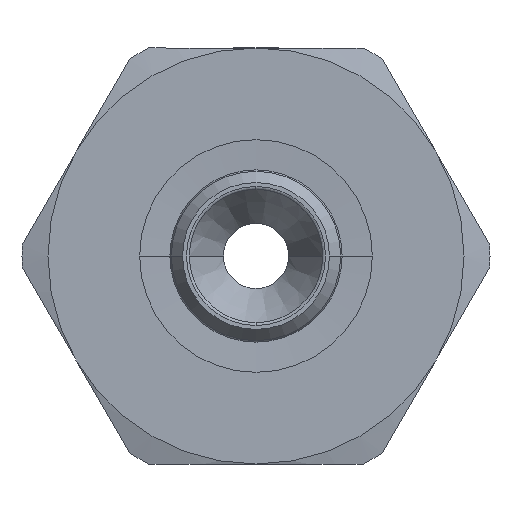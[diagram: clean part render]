
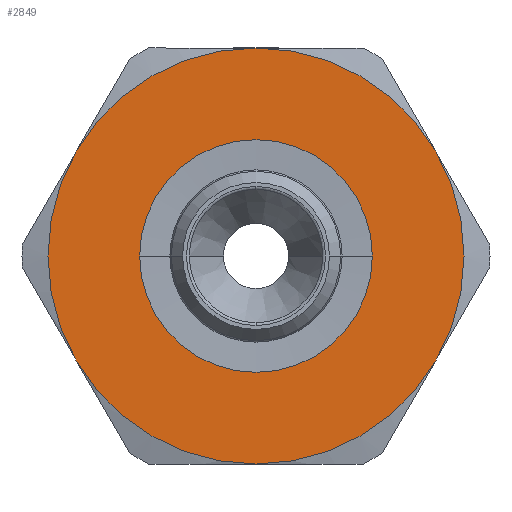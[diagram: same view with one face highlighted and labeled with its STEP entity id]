
A CAD part, left-side view. The second image highlights one B-rep face of the part: STEP entity #2849.
In plain terms, the highlighted planar face has unit normal (-1, 0, 0) as drawn and (0, 0, 1) by its records, which use the part's own axes.
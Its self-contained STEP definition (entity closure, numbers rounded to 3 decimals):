
#1176=CARTESIAN_POINT('',(0.,-8.95,4.5));
#1177=VERTEX_POINT('',#1176);
#1193=CARTESIAN_POINT('',(0.,8.95,4.5));
#1194=VERTEX_POINT('',#1193);
#1201=CARTESIAN_POINT('',(0.,0.,4.5));
#1202=DIRECTION('',(0.0,0.0,-1.0));
#1203=DIRECTION('',(0.0,-1.0,0.0));
#1204=AXIS2_PLACEMENT_3D('',#1201,#1202,#1203);
#1205=CIRCLE('',#1204,8.95);
#1206=EDGE_CURVE('',#1177,#1194,#1205,.T.);
#1663=CARTESIAN_POINT('',(0.,0.,4.5));
#1664=DIRECTION('',(0.0,0.0,-1.0));
#1665=DIRECTION('',(0.0,-1.0,0.0));
#1666=AXIS2_PLACEMENT_3D('',#1663,#1664,#1665);
#1667=CIRCLE('',#1666,8.95);
#1668=EDGE_CURVE('',#1194,#1177,#1667,.T.);
#2222=CARTESIAN_POINT('',(8.,-13.856,4.5));
#2223=VERTEX_POINT('',#2222);
#2237=CARTESIAN_POINT('',(-8.,-13.856,4.5));
#2238=VERTEX_POINT('',#2237);
#2239=CARTESIAN_POINT('',(0.,0.0,4.5));
#2240=DIRECTION('',(0.0,0.0,1.0));
#2241=DIRECTION('',(1.0,0.0,0.0));
#2242=AXIS2_PLACEMENT_3D('',#2239,#2240,#2241);
#2243=CIRCLE('',#2242,16.);
#2244=EDGE_CURVE('',#2238,#2223,#2243,.T.);
#2322=CARTESIAN_POINT('',(-16.0,0.,4.5));
#2323=VERTEX_POINT('',#2322);
#2324=CARTESIAN_POINT('',(0.,0.0,4.5));
#2325=DIRECTION('',(0.0,0.0,1.0));
#2326=DIRECTION('',(1.0,0.0,0.0));
#2327=AXIS2_PLACEMENT_3D('',#2324,#2325,#2326);
#2328=CIRCLE('',#2327,16.);
#2329=EDGE_CURVE('',#2323,#2238,#2328,.T.);
#2406=CARTESIAN_POINT('',(-8.,13.856,4.5));
#2407=VERTEX_POINT('',#2406);
#2408=CARTESIAN_POINT('',(0.,0.0,4.5));
#2409=DIRECTION('',(0.0,0.0,1.0));
#2410=DIRECTION('',(1.0,0.0,0.0));
#2411=AXIS2_PLACEMENT_3D('',#2408,#2409,#2410);
#2412=CIRCLE('',#2411,16.);
#2413=EDGE_CURVE('',#2407,#2323,#2412,.T.);
#2490=CARTESIAN_POINT('',(8.,13.856,4.5));
#2491=VERTEX_POINT('',#2490);
#2492=CARTESIAN_POINT('',(0.,0.0,4.5));
#2493=DIRECTION('',(0.0,0.0,1.0));
#2494=DIRECTION('',(1.0,0.0,0.0));
#2495=AXIS2_PLACEMENT_3D('',#2492,#2493,#2494);
#2496=CIRCLE('',#2495,16.);
#2497=EDGE_CURVE('',#2491,#2407,#2496,.T.);
#2575=CARTESIAN_POINT('',(16.0,0.0,4.5));
#2576=VERTEX_POINT('',#2575);
#2577=CARTESIAN_POINT('',(0.,0.0,4.5));
#2578=DIRECTION('',(0.0,0.0,1.0));
#2579=DIRECTION('',(1.0,0.0,0.0));
#2580=AXIS2_PLACEMENT_3D('',#2577,#2578,#2579);
#2581=CIRCLE('',#2580,16.);
#2582=EDGE_CURVE('',#2576,#2491,#2581,.T.);
#2659=CARTESIAN_POINT('',(0.,0.0,4.5));
#2660=DIRECTION('',(0.0,0.0,1.0));
#2661=DIRECTION('',(1.0,0.0,0.0));
#2662=AXIS2_PLACEMENT_3D('',#2659,#2660,#2661);
#2663=CIRCLE('',#2662,16.);
#2664=EDGE_CURVE('',#2223,#2576,#2663,.T.);
#2832=CARTESIAN_POINT('',(0.,0.,4.5));
#2833=DIRECTION('',(0.0,0.0,1.0));
#2834=DIRECTION('',(1.0,0.0,0.0));
#2835=AXIS2_PLACEMENT_3D('',#2832,#2833,#2834);
#2836=PLANE('',#2835);
#2837=ORIENTED_EDGE('',*,*,#2664,.T.);
#2838=ORIENTED_EDGE('',*,*,#2582,.T.);
#2839=ORIENTED_EDGE('',*,*,#2497,.T.);
#2840=ORIENTED_EDGE('',*,*,#2413,.T.);
#2841=ORIENTED_EDGE('',*,*,#2329,.T.);
#2842=ORIENTED_EDGE('',*,*,#2244,.T.);
#2843=EDGE_LOOP('',(#2837,#2838,#2839,#2840,#2841,#2842));
#2844=FACE_OUTER_BOUND('',#2843,.T.);
#2845=ORIENTED_EDGE('',*,*,#1206,.T.);
#2846=ORIENTED_EDGE('',*,*,#1668,.T.);
#2847=EDGE_LOOP('',(#2845,#2846));
#2848=FACE_BOUND('',#2847,.T.);
#2849=ADVANCED_FACE('',(#2844,#2848),#2836,.T.);
